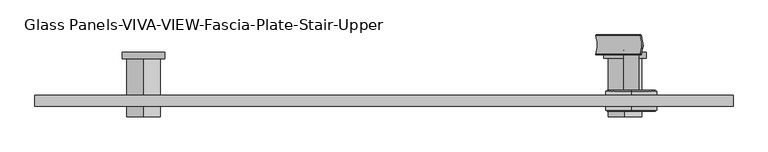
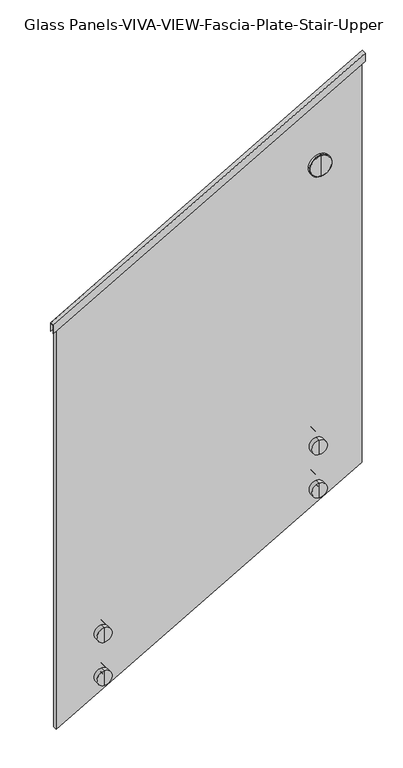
"""IFC4 building model written with IfcOpenShell, lengths in millimetres: railing geometry, Glass Panels-VIVA-VIEW-Fascia-Plate-Stair-Upper."""

from ifc_helpers import new_model, si_unit, point, frame, frame_2d, origin, place, context, project, spatial, polyline, circle_curve, trimmed, segment, composite_curve, outline, extrude, faceted_brep, source, transform, mapped, element, save
from ifc_brep_helpers import plane_surface, cylinder_surface, revolved_surface, advanced_brep


def glass_panels_viva_view_fascia_plate_stair_upper_4dbd70eb(model_context):
    return source(origin(), model_context, "Body", "SolidModel", [
        faceted_brep([(36710.9578933, -11437.3344585, 3542.8464286), (36710.9578933, -11437.3344585, 3513.5919505), (36710.9578933, -11438.9219585, 3513.5919505), (36710.9578933, -11438.9219585, 3541.0180237), (36710.9578933, -11451.6219585, 3541.0180237), (36710.9578933, -11451.6219585, 3513.5919505), (36710.9578933, -11453.2094585, 3513.5919505), (36710.9578933, -11453.2094585, 3542.8464286), (37756.3266433, -11437.3344585, 4140.2), (37756.3266433, -11453.2094585, 4140.2), (37756.3266433, -11453.2094585, 4110.9455219), (37756.3266433, -11451.6219585, 4110.9455219), (37756.3266433, -11451.6219585, 4138.3715951), (37756.3266433, -11438.9219585, 4138.3715951), (37756.3266433, -11438.9219585, 4110.9455219), (37756.3266433, -11437.3344585, 4110.9455219)], [[[0, 1, 2, 3, 4, 5, 6, 7]], [[8, 9, 10, 11, 12, 13, 14, 15]], [[1, 0, 8, 15]], [[2, 1, 15, 14]], [[3, 2, 14, 13]], [[4, 3, 13, 12]], [[5, 4, 12, 11]], [[6, 5, 11, 10]], [[7, 6, 10, 9]], [[0, 7, 9, 8]]]),
        advanced_brep(
        [(36873.6628149, -11469.0841646, 2222.2661821), (36873.6628149, -11469.0841646, 2273.0661821), (36873.6628149, -11469.0841646, 2247.6661821), (36873.6628149, -11451.6216646, 2222.2661821), (36873.6628149, -11451.6216646, 2273.0661821), (36873.6628149, -11451.6216646, 2241.9511821), (36873.6628149, -11451.6216646, 2253.3811821), (36873.6628149, -11438.9216646, 2241.9511821), (36873.6628149, -11438.9216646, 2253.3811821), (36873.6628149, -11438.9216646, 2222.2661821), (36873.6628149, -11438.9216646, 2273.0661821), (36873.6628149, -11381.7718115, 2222.2661821), (36873.6628149, -11381.7718115, 2273.0661821), (36873.6628149, -11381.7718115, 2247.6661821)],
        [
            (0, 1, circle_curve(frame((36873.6628149, -11469.0841646, 2247.6661821), z_axis=(0.0, -1.0, 0.0), x_axis=(0.0, 0.0, 1.0)), 25.4)),
            (1, 2),
            (2, 0),
            (1, 0, circle_curve(frame((36873.6628149, -11469.0841646, 2247.6661821), z_axis=(0.0, -1.0, 0.0), x_axis=(0.0, 0.0, 1.0)), 25.4)),
            (3, 4, circle_curve(frame((36873.6628149, -11451.6216646, 2247.6661821), z_axis=(0.0, -1.0, 0.0), x_axis=(0.0, 0.0, 1.0)), 25.4)),
            (4, 1),
            (0, 3),
            (4, 3, circle_curve(frame((36873.6628149, -11451.6216646, 2247.6661821), z_axis=(0.0, -1.0, 0.0), x_axis=(0.0, 0.0, 1.0)), 25.4)),
            (5, 6, circle_curve(frame((36873.6628149, -11451.6216646, 2247.6661821), z_axis=(0.0, -1.0, 0.0), x_axis=(0.0, 0.0, 1.0)), 5.715)),
            (6, 4),
            (3, 5),
            (6, 5, circle_curve(frame((36873.6628149, -11451.6216646, 2247.6661821), z_axis=(0.0, -1.0, 0.0), x_axis=(0.0, 0.0, 1.0)), 5.715)),
            (7, 8, circle_curve(frame((36873.6628149, -11438.9216646, 2247.6661821), z_axis=(0.0, -1.0, 0.0), x_axis=(0.0, 0.0, 1.0)), 5.715)),
            (8, 6),
            (5, 7),
            (8, 7, circle_curve(frame((36873.6628149, -11438.9216646, 2247.6661821), z_axis=(0.0, -1.0, 0.0), x_axis=(0.0, 0.0, 1.0)), 5.715)),
            (9, 10, circle_curve(frame((36873.6628149, -11438.9216646, 2247.6661821), z_axis=(0.0, -1.0, 0.0), x_axis=(0.0, 0.0, 1.0)), 25.4)),
            (10, 8),
            (7, 9),
            (10, 9, circle_curve(frame((36873.6628149, -11438.9216646, 2247.6661821), z_axis=(0.0, -1.0, 0.0), x_axis=(0.0, 0.0, 1.0)), 25.4)),
            (11, 12, circle_curve(frame((36873.6628149, -11381.7718115, 2247.6661821), z_axis=(0.0, -1.0, 0.0), x_axis=(0.0, 0.0, 1.0)), 25.4)),
            (12, 10),
            (9, 11),
            (12, 11, circle_curve(frame((36873.6628149, -11381.7718115, 2247.6661821), z_axis=(0.0, -1.0, 0.0), x_axis=(0.0, 0.0, 1.0)), 25.4)),
            (13, 12),
            (11, 13),
        ],
        [
            plane_surface(frame((36873.6628149, -11469.0841646, 2247.6661821), z_axis=(0.0, -1.0, 0.0), x_axis=(0.0, 0.0, 1.0))),
            cylinder_surface(frame((36873.6628149, -11537.3468115, 2247.6661821), z_axis=(0.0, 1.0, 0.0), x_axis=(0.0, 0.0, 1.0)), 25.4),
            plane_surface(frame((36873.6628149, -11451.6216646, 2247.6661821), z_axis=(0.0, 1.0, 0.0), x_axis=(0.0, 0.0, 1.0))),
            cylinder_surface(frame((36873.6628149, -11537.3468115, 2247.6661821), z_axis=(0.0, 1.0, 0.0), x_axis=(0.0, 0.0, 1.0)), 5.715),
            plane_surface(frame((36873.6628149, -11438.9216646, 2247.6661821), z_axis=(0.0, -1.0, 0.0), x_axis=(0.0, 0.0, 1.0))),
            plane_surface(frame((36873.6628149, -11381.7718115, 2247.6661821), z_axis=(0.0, 1.0, 0.0), x_axis=(0.0, 0.0, 1.0))),
        ],
        [
            (0, [[1, 2, 3]]),
            (0, [[4, -3, -2]]),
            (1, [[5, 6, -1, 7]]),
            (1, [[8, -7, -4, -6]]),
            (2, [[9, 10, -5, 11]]),
            (2, [[12, -11, -8, -10]]),
            (3, [[13, 14, -9, 15]]),
            (3, [[16, -15, -12, -14]]),
            (4, [[17, 18, -13, 19]]),
            (4, [[20, -19, -16, -18]]),
            (1, [[21, 22, -17, 23]]),
            (1, [[24, -23, -20, -22]]),
            (5, [[25, -21, 26]]),
            (5, [[-26, -24, -25]]),
        ],
    ),
        advanced_brep(
        [(36873.6628149, -11451.6216646, 2394.3511821), (36873.6628149, -11451.6216646, 2405.7811821), (36873.6628149, -11451.6216646, 2425.4661821), (36873.6628149, -11451.6216646, 2374.6661821), (36873.6628149, -11438.9216646, 2394.3511821), (36873.6628149, -11438.9216646, 2405.7811821), (36873.6628149, -11438.9216646, 2374.6661821), (36873.6628149, -11438.9216646, 2425.4661821), (36873.6628149, -11381.7718115, 2374.6661821), (36873.6628149, -11381.7718115, 2425.4661821), (36873.6628149, -11381.7718115, 2400.0661821), (36873.6628149, -11469.0841646, 2374.6661821), (36873.6628149, -11469.0841646, 2425.4661821), (36873.6628149, -11469.0841646, 2400.0661821)],
        [
            (0, 1, circle_curve(frame((36873.6628149, -11451.6216646, 2400.0661821), z_axis=(0.0, -1.0, 0.0), x_axis=(0.0, 0.0, 1.0)), 5.715)),
            (1, 2),
            (2, 3, circle_curve(frame((36873.6628149, -11451.6216646, 2400.0661821), z_axis=(0.0, 1.0, 0.0), x_axis=(0.0, 0.0, 1.0)), 25.4)),
            (3, 0),
            (1, 0, circle_curve(frame((36873.6628149, -11451.6216646, 2400.0661821), z_axis=(0.0, -1.0, 0.0), x_axis=(0.0, 0.0, 1.0)), 5.715)),
            (3, 2, circle_curve(frame((36873.6628149, -11451.6216646, 2400.0661821), z_axis=(0.0, 1.0, 0.0), x_axis=(0.0, 0.0, 1.0)), 25.4)),
            (4, 5, circle_curve(frame((36873.6628149, -11438.9216646, 2400.0661821), z_axis=(0.0, -1.0, 0.0), x_axis=(0.0, 0.0, 1.0)), 5.715)),
            (5, 1),
            (0, 4),
            (5, 4, circle_curve(frame((36873.6628149, -11438.9216646, 2400.0661821), z_axis=(0.0, -1.0, 0.0), x_axis=(0.0, 0.0, 1.0)), 5.715)),
            (6, 7, circle_curve(frame((36873.6628149, -11438.9216646, 2400.0661821), z_axis=(0.0, -1.0, 0.0), x_axis=(0.0, 0.0, 1.0)), 25.4)),
            (7, 5),
            (4, 6),
            (7, 6, circle_curve(frame((36873.6628149, -11438.9216646, 2400.0661821), z_axis=(0.0, -1.0, 0.0), x_axis=(0.0, 0.0, 1.0)), 25.4)),
            (8, 9, circle_curve(frame((36873.6628149, -11381.7718115, 2400.0661821), z_axis=(0.0, -1.0, 0.0), x_axis=(0.0, 0.0, 1.0)), 25.4)),
            (9, 7),
            (6, 8),
            (9, 8, circle_curve(frame((36873.6628149, -11381.7718115, 2400.0661821), z_axis=(0.0, -1.0, 0.0), x_axis=(0.0, 0.0, 1.0)), 25.4)),
            (10, 9),
            (8, 10),
            (11, 12, circle_curve(frame((36873.6628149, -11469.0841646, 2400.0661821), z_axis=(0.0, -1.0, 0.0), x_axis=(0.0, 0.0, 1.0)), 25.4)),
            (12, 13),
            (13, 11),
            (12, 11, circle_curve(frame((36873.6628149, -11469.0841646, 2400.0661821), z_axis=(0.0, -1.0, 0.0), x_axis=(0.0, 0.0, 1.0)), 25.4)),
            (2, 12),
            (11, 3),
        ],
        [
            plane_surface(frame((36873.6628149, -11451.6216646, 2400.0661821), z_axis=(0.0, 1.0, 0.0), x_axis=(0.0, 0.0, 1.0))),
            cylinder_surface(frame((36873.6628149, -11537.3468115, 2400.0661821), z_axis=(0.0, 1.0, 0.0), x_axis=(0.0, 0.0, 1.0)), 5.715),
            plane_surface(frame((36873.6628149, -11438.9216646, 2400.0661821), z_axis=(0.0, -1.0, 0.0), x_axis=(0.0, 0.0, 1.0))),
            cylinder_surface(frame((36873.6628149, -11537.3468115, 2400.0661821), z_axis=(0.0, 1.0, 0.0), x_axis=(0.0, 0.0, 1.0)), 25.4),
            plane_surface(frame((36873.6628149, -11381.7718115, 2400.0661821), z_axis=(0.0, 1.0, 0.0), x_axis=(0.0, 0.0, 1.0))),
            plane_surface(frame((36873.6628149, -11469.0841646, 2400.0661821), z_axis=(0.0, -1.0, 0.0), x_axis=(0.0, 0.0, 1.0))),
        ],
        [
            (0, [[1, 2, 3, 4]]),
            (0, [[5, -4, 6, -2]]),
            (1, [[7, 8, -1, 9]]),
            (1, [[10, -9, -5, -8]]),
            (2, [[11, 12, -7, 13]]),
            (2, [[14, -13, -10, -12]]),
            (3, [[15, 16, -11, 17]]),
            (3, [[18, -17, -14, -16]]),
            (4, [[19, -15, 20]]),
            (4, [[-20, -18, -19]]),
            (5, [[21, 22, 23]]),
            (5, [[24, -23, -22]]),
            (3, [[-3, 25, -21, 26]]),
            (3, [[-6, -26, -24, -25]]),
        ],
    ),
        extrude(outline(composite_curve([segment(polyline([(2400.0661821, 36841.9128149), (2247.6661821, 36841.9128149)]), True, "CONTINUOUS"), segment(trimmed(circle_curve(frame_2d((2247.6661821, 36873.6628149)), 31.75), [point((2247.6661821, 36841.9128149))], [point((2247.6661821, 36905.4128149))], False, "CARTESIAN"), True, "CONTINUOUS"), segment(polyline([(2247.6661821, 36905.4128149), (2400.0661821, 36905.4128149)]), True, "CONTINUOUS"), segment(trimmed(circle_curve(frame_2d((2400.0661821, 36873.6628149)), 31.75), [point((2400.0661821, 36905.4128149))], [point((2400.0661821, 36841.9128149))], False, "CARTESIAN"), True, "CONTINUOUS")], self_intersect=False)), frame((0.0, -11381.7718115, 0.0), z_axis=(0.0, 1.0, 0.0), x_axis=(0.0, 0.0, 1.0)), (0.0, 0.0, 1.0), 9.525),
        advanced_brep(
        [(37594.3878149, -11469.0841646, 2634.1090392), (37594.3878149, -11469.0841646, 2684.9090392), (37594.3878149, -11469.0841646, 2659.5090392), (37594.3878149, -11451.6216646, 2634.1090392), (37594.3878149, -11451.6216646, 2684.9090392), (37594.3878149, -11451.6216646, 2653.7940392), (37594.3878149, -11451.6216646, 2665.2240392), (37594.3878149, -11438.9216646, 2653.7940392), (37594.3878149, -11438.9216646, 2665.2240392), (37594.3878149, -11438.9216646, 2634.1090392), (37594.3878149, -11438.9216646, 2684.9090392), (37594.3878149, -11381.7718115, 2634.1090392), (37594.3878149, -11381.7718115, 2684.9090392), (37594.3878149, -11381.7718115, 2659.5090392)],
        [
            (0, 1, circle_curve(frame((37594.3878149, -11469.0841646, 2659.5090392), z_axis=(0.0, -1.0, 0.0), x_axis=(0.0, 0.0, 1.0)), 25.4)),
            (1, 2),
            (2, 0),
            (1, 0, circle_curve(frame((37594.3878149, -11469.0841646, 2659.5090392), z_axis=(0.0, -1.0, 0.0), x_axis=(0.0, 0.0, 1.0)), 25.4)),
            (3, 4, circle_curve(frame((37594.3878149, -11451.6216646, 2659.5090392), z_axis=(0.0, -1.0, 0.0), x_axis=(0.0, 0.0, 1.0)), 25.4)),
            (4, 1),
            (0, 3),
            (4, 3, circle_curve(frame((37594.3878149, -11451.6216646, 2659.5090392), z_axis=(0.0, -1.0, 0.0), x_axis=(0.0, 0.0, 1.0)), 25.4)),
            (5, 6, circle_curve(frame((37594.3878149, -11451.6216646, 2659.5090392), z_axis=(0.0, -1.0, 0.0), x_axis=(0.0, 0.0, 1.0)), 5.715)),
            (6, 4),
            (3, 5),
            (6, 5, circle_curve(frame((37594.3878149, -11451.6216646, 2659.5090392), z_axis=(0.0, -1.0, 0.0), x_axis=(0.0, 0.0, 1.0)), 5.715)),
            (7, 8, circle_curve(frame((37594.3878149, -11438.9216646, 2659.5090392), z_axis=(0.0, -1.0, 0.0), x_axis=(0.0, 0.0, 1.0)), 5.715)),
            (8, 6),
            (5, 7),
            (8, 7, circle_curve(frame((37594.3878149, -11438.9216646, 2659.5090392), z_axis=(0.0, -1.0, 0.0), x_axis=(0.0, 0.0, 1.0)), 5.715)),
            (9, 10, circle_curve(frame((37594.3878149, -11438.9216646, 2659.5090392), z_axis=(0.0, -1.0, 0.0), x_axis=(0.0, 0.0, 1.0)), 25.4)),
            (10, 8),
            (7, 9),
            (10, 9, circle_curve(frame((37594.3878149, -11438.9216646, 2659.5090392), z_axis=(0.0, -1.0, 0.0), x_axis=(0.0, 0.0, 1.0)), 25.4)),
            (11, 12, circle_curve(frame((37594.3878149, -11381.7718115, 2659.5090392), z_axis=(0.0, -1.0, 0.0), x_axis=(0.0, 0.0, 1.0)), 25.4)),
            (12, 10),
            (9, 11),
            (12, 11, circle_curve(frame((37594.3878149, -11381.7718115, 2659.5090392), z_axis=(0.0, -1.0, 0.0), x_axis=(0.0, 0.0, 1.0)), 25.4)),
            (13, 12),
            (11, 13),
        ],
        [
            plane_surface(frame((37594.3878149, -11469.0841646, 2659.5090392), z_axis=(0.0, -1.0, 0.0), x_axis=(0.0, 0.0, 1.0))),
            cylinder_surface(frame((37594.3878149, -11537.3468115, 2659.5090392), z_axis=(0.0, 1.0, 0.0), x_axis=(0.0, 0.0, 1.0)), 25.4),
            plane_surface(frame((37594.3878149, -11451.6216646, 2659.5090392), z_axis=(0.0, 1.0, 0.0), x_axis=(0.0, 0.0, 1.0))),
            cylinder_surface(frame((37594.3878149, -11537.3468115, 2659.5090392), z_axis=(0.0, 1.0, 0.0), x_axis=(0.0, 0.0, 1.0)), 5.715),
            plane_surface(frame((37594.3878149, -11438.9216646, 2659.5090392), z_axis=(0.0, -1.0, 0.0), x_axis=(0.0, 0.0, 1.0))),
            plane_surface(frame((37594.3878149, -11381.7718115, 2659.5090392), z_axis=(0.0, 1.0, 0.0), x_axis=(0.0, 0.0, 1.0))),
        ],
        [
            (0, [[1, 2, 3]]),
            (0, [[4, -3, -2]]),
            (1, [[5, 6, -1, 7]]),
            (1, [[8, -7, -4, -6]]),
            (2, [[9, 10, -5, 11]]),
            (2, [[12, -11, -8, -10]]),
            (3, [[13, 14, -9, 15]]),
            (3, [[16, -15, -12, -14]]),
            (4, [[17, 18, -13, 19]]),
            (4, [[20, -19, -16, -18]]),
            (1, [[21, 22, -17, 23]]),
            (1, [[24, -23, -20, -22]]),
            (5, [[25, -21, 26]]),
            (5, [[-26, -24, -25]]),
        ],
    ),
        advanced_brep(
        [(37594.3878149, -11451.6216646, 2806.1940392), (37594.3878149, -11451.6216646, 2817.6240392), (37594.3878149, -11451.6216646, 2837.3090392), (37594.3878149, -11451.6216646, 2786.5090392), (37594.3878149, -11438.9216646, 2806.1940392), (37594.3878149, -11438.9216646, 2817.6240392), (37594.3878149, -11438.9216646, 2786.5090392), (37594.3878149, -11438.9216646, 2837.3090392), (37594.3878149, -11381.7718115, 2786.5090392), (37594.3878149, -11381.7718115, 2837.3090392), (37594.3878149, -11381.7718115, 2811.9090392), (37594.3878149, -11469.0841646, 2786.5090392), (37594.3878149, -11469.0841646, 2837.3090392), (37594.3878149, -11469.0841646, 2811.9090392)],
        [
            (0, 1, circle_curve(frame((37594.3878149, -11451.6216646, 2811.9090392), z_axis=(0.0, -1.0, 0.0), x_axis=(0.0, 0.0, 1.0)), 5.715)),
            (1, 2),
            (2, 3, circle_curve(frame((37594.3878149, -11451.6216646, 2811.9090392), z_axis=(0.0, 1.0, 0.0), x_axis=(0.0, 0.0, 1.0)), 25.4)),
            (3, 0),
            (1, 0, circle_curve(frame((37594.3878149, -11451.6216646, 2811.9090392), z_axis=(0.0, -1.0, 0.0), x_axis=(0.0, 0.0, 1.0)), 5.715)),
            (3, 2, circle_curve(frame((37594.3878149, -11451.6216646, 2811.9090392), z_axis=(0.0, 1.0, 0.0), x_axis=(0.0, 0.0, 1.0)), 25.4)),
            (4, 5, circle_curve(frame((37594.3878149, -11438.9216646, 2811.9090392), z_axis=(0.0, -1.0, 0.0), x_axis=(0.0, 0.0, 1.0)), 5.715)),
            (5, 1),
            (0, 4),
            (5, 4, circle_curve(frame((37594.3878149, -11438.9216646, 2811.9090392), z_axis=(0.0, -1.0, 0.0), x_axis=(0.0, 0.0, 1.0)), 5.715)),
            (6, 7, circle_curve(frame((37594.3878149, -11438.9216646, 2811.9090392), z_axis=(0.0, -1.0, 0.0), x_axis=(0.0, 0.0, 1.0)), 25.4)),
            (7, 5),
            (4, 6),
            (7, 6, circle_curve(frame((37594.3878149, -11438.9216646, 2811.9090392), z_axis=(0.0, -1.0, 0.0), x_axis=(0.0, 0.0, 1.0)), 25.4)),
            (8, 9, circle_curve(frame((37594.3878149, -11381.7718115, 2811.9090392), z_axis=(0.0, -1.0, 0.0), x_axis=(0.0, 0.0, 1.0)), 25.4)),
            (9, 7),
            (6, 8),
            (9, 8, circle_curve(frame((37594.3878149, -11381.7718115, 2811.9090392), z_axis=(0.0, -1.0, 0.0), x_axis=(0.0, 0.0, 1.0)), 25.4)),
            (10, 9),
            (8, 10),
            (11, 12, circle_curve(frame((37594.3878149, -11469.0841646, 2811.9090392), z_axis=(0.0, -1.0, 0.0), x_axis=(0.0, 0.0, 1.0)), 25.4)),
            (12, 13),
            (13, 11),
            (12, 11, circle_curve(frame((37594.3878149, -11469.0841646, 2811.9090392), z_axis=(0.0, -1.0, 0.0), x_axis=(0.0, 0.0, 1.0)), 25.4)),
            (2, 12),
            (11, 3),
        ],
        [
            plane_surface(frame((37594.3878149, -11451.6216646, 2811.9090392), z_axis=(0.0, 1.0, 0.0), x_axis=(0.0, 0.0, 1.0))),
            cylinder_surface(frame((37594.3878149, -11537.3468115, 2811.9090392), z_axis=(0.0, 1.0, 0.0), x_axis=(0.0, 0.0, 1.0)), 5.715),
            plane_surface(frame((37594.3878149, -11438.9216646, 2811.9090392), z_axis=(0.0, -1.0, 0.0), x_axis=(0.0, 0.0, 1.0))),
            cylinder_surface(frame((37594.3878149, -11537.3468115, 2811.9090392), z_axis=(0.0, 1.0, 0.0), x_axis=(0.0, 0.0, 1.0)), 25.4),
            plane_surface(frame((37594.3878149, -11381.7718115, 2811.9090392), z_axis=(0.0, 1.0, 0.0), x_axis=(0.0, 0.0, 1.0))),
            plane_surface(frame((37594.3878149, -11469.0841646, 2811.9090392), z_axis=(0.0, -1.0, 0.0), x_axis=(0.0, 0.0, 1.0))),
        ],
        [
            (0, [[1, 2, 3, 4]]),
            (0, [[5, -4, 6, -2]]),
            (1, [[7, 8, -1, 9]]),
            (1, [[10, -9, -5, -8]]),
            (2, [[11, 12, -7, 13]]),
            (2, [[14, -13, -10, -12]]),
            (3, [[15, 16, -11, 17]]),
            (3, [[18, -17, -14, -16]]),
            (4, [[19, -15, 20]]),
            (4, [[-20, -18, -19]]),
            (5, [[21, 22, 23]]),
            (5, [[24, -23, -22]]),
            (3, [[-3, 25, -21, 26]]),
            (3, [[-6, -26, -24, -25]]),
        ],
    ),
        extrude(outline(composite_curve([segment(polyline([(2811.9090392, 37562.6378149), (2659.5090392, 37562.6378149)]), True, "CONTINUOUS"), segment(trimmed(circle_curve(frame_2d((2659.5090392, 37594.3878149)), 31.75), [point((2659.5090392, 37562.6378149))], [point((2659.5090392, 37626.1378149))], False, "CARTESIAN"), True, "CONTINUOUS"), segment(polyline([(2659.5090392, 37626.1378149), (2811.9090392, 37626.1378149)]), True, "CONTINUOUS"), segment(trimmed(circle_curve(frame_2d((2811.9090392, 37594.3878149)), 31.75), [point((2811.9090392, 37626.1378149))], [point((2811.9090392, 37562.6378149))], False, "CARTESIAN"), True, "CONTINUOUS")], self_intersect=False)), frame((0.0, -11381.7718115, 0.0), z_axis=(0.0, 1.0, 0.0), x_axis=(0.0, 0.0, 1.0)), (0.0, 0.0, 1.0), 9.525),
        extrude(outline(polyline([(4132.9242304, 37746.7878149), (3546.9099447, 36721.2628149), (2109.7804678, 36721.2628149), (2695.7947535, 37746.7878149), (4132.9242304, 37746.7878149)])), frame((0.0, -11451.6219585, 0.0), z_axis=(0.0, 1.0, 0.0), x_axis=(0.0, 0.0, 1.0)), (0.0, 0.0, 1.0), 12.7),
        extrude(outline(composite_curve([segment(trimmed(circle_curve(frame_2d((0.0, -7.0)), 7.0), [point((0.0, -14.0))], [point((0.0, 0.0))], False, "CARTESIAN"), True, "CONTINUOUS"), segment(trimmed(circle_curve(frame_2d((0.0, -7.0)), 7.0), [point((0.0, 0.0))], [point((0.0, -14.0))], False, "CARTESIAN"), True, "CONTINUOUS")], self_intersect=False)), frame((37615.347567, -11370.0520975, 3776.2378704), z_axis=(-0.4481147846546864, 0.0, 0.8939760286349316), x_axis=(-0.8939760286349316, 0.0, -0.4481147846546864)), (0.0, 0.0, 1.0), 52.8378352),
        extrude(outline(composite_curve([segment(trimmed(circle_curve(frame_2d((18.6575251, 0.3952033)), 19.05), [point((5.2466063, 13.9247916))], [point((5.2466063, -13.1343849))], True, "CARTESIAN"), True, "CONTINUOUS"), segment(polyline([(5.2466063, -13.1343849), (4.2292192, -14.1607745)]), True, "CONTINUOUS"), segment(trimmed(circle_curve(frame_2d((3.1638974, -13.1047967)), 1.5), [point((4.2292192, -14.1607745))], [point((2.0329756, -14.0901981))], False, "CARTESIAN"), True, "CONTINUOUS"), segment(trimmed(circle_curve(frame_2d((18.6575251, 0.3952033)), 22.05), [point((2.0329756, -14.0901981))], [point((2.0329756, 14.8806048))], False, "CARTESIAN"), True, "CONTINUOUS"), segment(trimmed(circle_curve(frame_2d((3.1638974, 13.8952033)), 1.5), [point((2.0329756, 14.8806048))], [point((4.2292192, 14.9511812))], False, "CARTESIAN"), True, "CONTINUOUS"), segment(polyline([(4.2292192, 14.9511812), (5.2466063, 13.9247916)]), True, "CONTINUOUS")], self_intersect=False)), frame((37552.693589, -11361.3248652, 3807.8629743), z_axis=(0.8953503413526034, 0.0, 0.44536251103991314), x_axis=(-0.44536251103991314, 0.0, 0.8953503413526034)), (0.0, 0.0, 1.0), 74.5229187),
        extrude(outline(composite_curve([segment(trimmed(circle_curve(frame_2d((3799.1142857, 37603.9266433)), 11.0132813), [point((3799.1142857, 37614.9399245))], [point((3799.1142857, 37592.913362))], False, "CARTESIAN"), True, "CONTINUOUS"), segment(trimmed(circle_curve(frame_2d((3799.1142857, 37603.9266433)), 11.0132813), [point((3799.1142857, 37592.913362))], [point((3799.1142857, 37614.9399245))], False, "CARTESIAN"), True, "CONTINUOUS")], self_intersect=False)), frame((0.0, -11429.2977397, 0.0), z_axis=(0.0, 1.0, 0.0), x_axis=(0.0, 0.0, 1.0)), (0.0, 0.0, 1.0), 79.2757812),
        advanced_brep(
        [(37603.9266433, -11461.2461772, 3799.1142857), (37603.9266433, -11461.2461772, 3835.2299107), (37603.9266433, -11461.2461772, 3762.9986607), (37603.9266433, -11429.2977397, 3762.9986607), (37603.9266433, -11429.2977397, 3835.2299107), (37603.9266433, -11429.2977397, 3799.1142857), (37603.9266433, -11431.2821147, 3761.0142857), (37603.9266433, -11431.2821147, 3837.2142857), (37603.9266433, -11438.9219585, 3761.0142857), (37603.9266433, -11438.9219585, 3837.2142857), (37603.9266433, -11438.9219585, 3786.4142857), (37603.9266433, -11438.9219585, 3811.8142857), (37603.9266433, -11451.6219585, 3786.4142857), (37603.9266433, -11451.6219585, 3811.8142857), (37603.9266433, -11451.6219585, 3761.0142857), (37603.9266433, -11451.6219585, 3837.2142857), (37603.9266433, -11459.2618022, 3761.0142857), (37603.9266433, -11459.2618022, 3837.2142857)],
        [
            (0, 1),
            (1, 2, circle_curve(frame((37603.9266433, -11461.2461772, 3799.1142857), z_axis=(0.0, -1.0, 0.0), x_axis=(0.0, 0.0, 1.0)), 36.115625)),
            (2, 0),
            (2, 1, circle_curve(frame((37603.9266433, -11461.2461772, 3799.1142857), z_axis=(0.0, -1.0, 0.0), x_axis=(0.0, 0.0, 1.0)), 36.115625)),
            (3, 4, circle_curve(frame((37603.9266433, -11429.2977397, 3799.1142857), z_axis=(0.0, 1.0, 0.0), x_axis=(0.0, 0.0, 1.0)), 36.115625)),
            (4, 5),
            (5, 3),
            (4, 3, circle_curve(frame((37603.9266433, -11429.2977397, 3799.1142857), z_axis=(0.0, 1.0, 0.0), x_axis=(0.0, 0.0, 1.0)), 36.115625)),
            (6, 7, circle_curve(frame((37603.9266433, -11431.2821147, 3799.1142857), z_axis=(0.0, 1.0, 0.0), x_axis=(0.0, 0.0, 1.0)), 38.1)),
            (7, 4),
            (3, 6),
            (7, 6, circle_curve(frame((37603.9266433, -11431.2821147, 3799.1142857), z_axis=(0.0, 1.0, 0.0), x_axis=(0.0, 0.0, 1.0)), 38.1)),
            (8, 9, circle_curve(frame((37603.9266433, -11438.9219585, 3799.1142857), z_axis=(0.0, 1.0, 0.0), x_axis=(0.0, 0.0, 1.0)), 38.1)),
            (9, 7),
            (6, 8),
            (9, 8, circle_curve(frame((37603.9266433, -11438.9219585, 3799.1142857), z_axis=(0.0, 1.0, 0.0), x_axis=(0.0, 0.0, 1.0)), 38.1)),
            (10, 11, circle_curve(frame((37603.9266433, -11438.9219585, 3799.1142857), z_axis=(0.0, 1.0, 0.0), x_axis=(0.0, 0.0, 1.0)), 12.7)),
            (11, 9),
            (8, 10),
            (11, 10, circle_curve(frame((37603.9266433, -11438.9219585, 3799.1142857), z_axis=(0.0, 1.0, 0.0), x_axis=(0.0, 0.0, 1.0)), 12.7)),
            (12, 13, circle_curve(frame((37603.9266433, -11451.6219585, 3799.1142857), z_axis=(0.0, 1.0, 0.0), x_axis=(0.0, 0.0, 1.0)), 12.7)),
            (13, 11),
            (10, 12),
            (13, 12, circle_curve(frame((37603.9266433, -11451.6219585, 3799.1142857), z_axis=(0.0, 1.0, 0.0), x_axis=(0.0, 0.0, 1.0)), 12.7)),
            (14, 15, circle_curve(frame((37603.9266433, -11451.6219585, 3799.1142857), z_axis=(0.0, 1.0, 0.0), x_axis=(0.0, 0.0, 1.0)), 38.1)),
            (15, 13),
            (12, 14),
            (15, 14, circle_curve(frame((37603.9266433, -11451.6219585, 3799.1142857), z_axis=(0.0, 1.0, 0.0), x_axis=(0.0, 0.0, 1.0)), 38.1)),
            (16, 17, circle_curve(frame((37603.9266433, -11459.2618022, 3799.1142857), z_axis=(0.0, 1.0, 0.0), x_axis=(0.0, 0.0, 1.0)), 38.1)),
            (17, 15),
            (14, 16),
            (17, 16, circle_curve(frame((37603.9266433, -11459.2618022, 3799.1142857), z_axis=(0.0, 1.0, 0.0), x_axis=(0.0, 0.0, 1.0)), 38.1)),
            (1, 17),
            (16, 2),
        ],
        [
            plane_surface(frame((37603.9266433, -11461.2461772, 3799.1142857), z_axis=(0.0, -1.0, 0.0), x_axis=(0.0, 0.0, 1.0))),
            plane_surface(frame((37603.9266433, -11429.2977397, 3799.1142857), z_axis=(0.0, 1.0, 0.0), x_axis=(0.0, 0.0, 1.0))),
            revolved_surface(polyline([(37603.9266433, -11429.2977397, 3835.2299107), (37603.9266433, -11431.2821147, 3837.2142857)]), (37603.9266433, -11497.3618022, 3799.1142857), (0.0, -1.0, 0.0)),
            cylinder_surface(frame((37603.9266433, -11497.3618022, 3799.1142857), z_axis=(0.0, -1.0, 0.0), x_axis=(0.0, 0.0, 1.0)), 38.1),
            plane_surface(frame((37603.9266433, -11438.9219585, 3799.1142857), z_axis=(0.0, -1.0, 0.0), x_axis=(0.0, 0.0, 1.0))),
            cylinder_surface(frame((37603.9266433, -11497.3618022, 3799.1142857), z_axis=(0.0, -1.0, 0.0), x_axis=(0.0, 0.0, 1.0)), 12.7),
            plane_surface(frame((37603.9266433, -11451.6219585, 3799.1142857), z_axis=(0.0, 1.0, 0.0), x_axis=(0.0, 0.0, 1.0))),
            revolved_surface(polyline([(37603.9266433, -11459.2618022, 3837.2142857), (37603.9266433, -11461.2461772, 3835.2299107)]), (37603.9266433, -11497.3618022, 3799.1142857), (0.0, -1.0, 0.0)),
        ],
        [
            (0, [[1, 2, 3]]),
            (0, [[-3, 4, -1]]),
            (1, [[5, 6, 7]]),
            (1, [[8, -7, -6]]),
            (2, [[9, 10, -5, 11]]),
            (2, [[12, -11, -8, -10]]),
            (3, [[13, 14, -9, 15]]),
            (3, [[16, -15, -12, -14]]),
            (4, [[17, 18, -13, 19]]),
            (4, [[20, -19, -16, -18]]),
            (5, [[21, 22, -17, 23]]),
            (5, [[24, -23, -20, -22]]),
            (6, [[25, 26, -21, 27]]),
            (6, [[28, -27, -24, -26]]),
            (3, [[29, 30, -25, 31]]),
            (3, [[32, -31, -28, -30]]),
            (7, [[-2, 33, -29, 34]]),
            (7, [[-4, -34, -32, -33]]),
        ],
    ),
    ])


if __name__ == "__main__":
    model = new_model("IFC4")
    model_context = context("Model", 3, world=origin())
    ifc_project = project(units=[si_unit("LENGTHUNIT", "METRE", prefix="MILLI")], contexts=[model_context])
    site = spatial("IfcSite", under=ifc_project)
    building = spatial("IfcBuilding", under=site)
    placement = place(None, origin())
    glass_panels_viva_view_fascia_plate_stair_upper_shape = glass_panels_viva_view_fascia_plate_stair_upper_4dbd70eb(model_context)
    element("IfcRailing", 1, ObjectType="Glass Panels-VIVA-VIEW-Fascia-Plate-Stair-Upper", at=placement, inside=building, context=model_context, shape_type="MappedRepresentation", body=[
        mapped(glass_panels_viva_view_fascia_plate_stair_upper_shape, transform((0.0, 0.0, 0.0), x_axis=(1.0, 0.0, 0.0), y_axis=(0.0, 1.0, 0.0), z_axis=(0.0, 0.0, 1.0))),
    ])
    save(model, "model.ifc")
